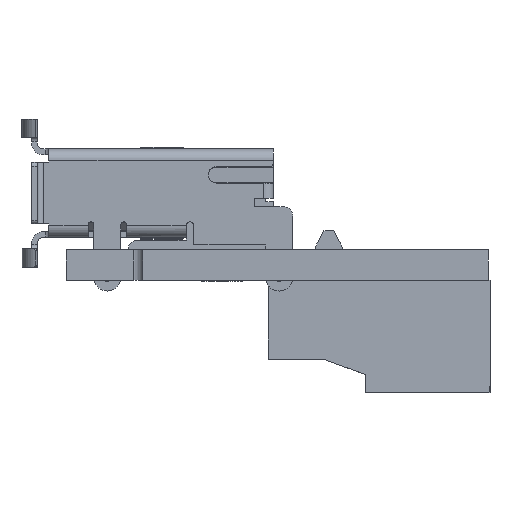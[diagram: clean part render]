
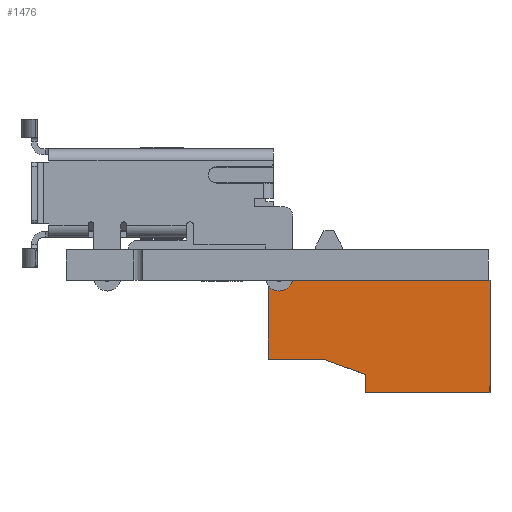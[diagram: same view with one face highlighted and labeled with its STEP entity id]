
A CAD part, front view. The second image highlights one B-rep face of the part: STEP entity #1476.
In plain terms, the highlighted planar face has unit normal (0, -1, 0).
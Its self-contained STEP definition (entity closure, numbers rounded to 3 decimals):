
#1476=ADVANCED_FACE('',(#2808),#13274,.T.);
#2808=FACE_OUTER_BOUND('',#4279,.F.);
#4279=EDGE_LOOP('',(#11225,#11226,#11227,#11228,#11229,#11230,#11231,#11232));
#11225=ORIENTED_EDGE('',*,*,#17097,.F.);
#11226=ORIENTED_EDGE('',*,*,#17117,.F.);
#11227=ORIENTED_EDGE('',*,*,#16482,.F.);
#11228=ORIENTED_EDGE('',*,*,#16504,.F.);
#11229=ORIENTED_EDGE('',*,*,#16426,.F.);
#11230=ORIENTED_EDGE('',*,*,#16463,.F.);
#11231=ORIENTED_EDGE('',*,*,#13899,.F.);
#11232=ORIENTED_EDGE('',*,*,#16408,.F.);
#13274=PLANE('',#28915);
#13899=EDGE_CURVE('',#27309,#27321,#17843,.T.);
#16408=EDGE_CURVE('',#25690,#27309,#19968,.T.);
#16426=EDGE_CURVE('',#25675,#25674,#19986,.T.);
#16463=EDGE_CURVE('',#27321,#25675,#20023,.T.);
#16482=EDGE_CURVE('',#25626,#25625,#20042,.T.);
#16504=EDGE_CURVE('',#25674,#25626,#20064,.T.);
#17097=EDGE_CURVE('',#25147,#25690,#20649,.T.);
#17117=EDGE_CURVE('',#25625,#25147,#20667,.T.);
#17843=LINE('',#38583,#21339);
#19968=LINE('',#41364,#23464);
#19986=LINE('',#41382,#23482);
#20023=LINE('',#41419,#23519);
#20042=LINE('',#41438,#23538);
#20064=LINE('',#41460,#23560);
#20649=LINE('',#42053,#24145);
#20667=LINE('',#42073,#24163);
#21339=VECTOR('',#29100,11.48);
#23464=VECTOR('',#31913,0.08);
#23482=VECTOR('',#31931,2.9);
#23519=VECTOR('',#31968,4.1);
#23538=VECTOR('',#31987,0.95);
#23560=VECTOR('',#32009,2.303);
#24145=VECTOR('',#32610,5.85);
#24163=VECTOR('',#32632,6.5);
#25147=VERTEX_POINT('',#36359);
#25625=VERTEX_POINT('',#36837);
#25626=VERTEX_POINT('',#36838);
#25674=VERTEX_POINT('',#36886);
#25675=VERTEX_POINT('',#36887);
#25690=VERTEX_POINT('',#36902);
#27309=VERTEX_POINT('',#38521);
#27321=VERTEX_POINT('',#38533);
#28915=AXIS2_PLACEMENT_3D('',#44221,#35709,#35710);
#29100=DIRECTION('',(-1.,0.,0.));
#31913=DIRECTION('',(-1.,0.,0.));
#31931=DIRECTION('',(1.,0.,0.));
#31968=DIRECTION('',(0.,0.,-1.));
#31987=DIRECTION('',(0.,0.,-1.));
#32009=DIRECTION('',(0.938,0.,-0.347));
#32610=DIRECTION('',(0.,0.,1.));
#32632=DIRECTION('',(1.,0.,0.));
#35709=DIRECTION('',(0.,-1.,0.));
#35710=DIRECTION('',(-1.,0.,0.));
#36359=CARTESIAN_POINT('',(-59.92,-8.27,-0.35));
#36837=CARTESIAN_POINT('',(-66.42,-8.27,-0.35));
#36838=CARTESIAN_POINT('',(-66.42,-8.27,0.6));
#36886=CARTESIAN_POINT('',(-68.58,-8.27,1.4));
#36887=CARTESIAN_POINT('',(-71.48,-8.27,1.4));
#36902=CARTESIAN_POINT('',(-59.92,-8.27,5.5));
#38521=CARTESIAN_POINT('',(-60.,-8.27,5.5));
#38533=CARTESIAN_POINT('',(-71.48,-8.27,5.5));
#38583=CARTESIAN_POINT('',(-60.,-8.27,5.5));
#41364=CARTESIAN_POINT('',(-59.92,-8.27,5.5));
#41382=CARTESIAN_POINT('',(-71.48,-8.27,1.4));
#41419=CARTESIAN_POINT('',(-71.48,-8.27,5.5));
#41438=CARTESIAN_POINT('',(-66.42,-8.27,0.6));
#41460=CARTESIAN_POINT('',(-68.58,-8.27,1.4));
#42053=CARTESIAN_POINT('',(-59.92,-8.27,-0.35));
#42073=CARTESIAN_POINT('',(-66.42,-8.27,-0.35));
#44221=CARTESIAN_POINT('',(-59.342,-8.27,6.078));
